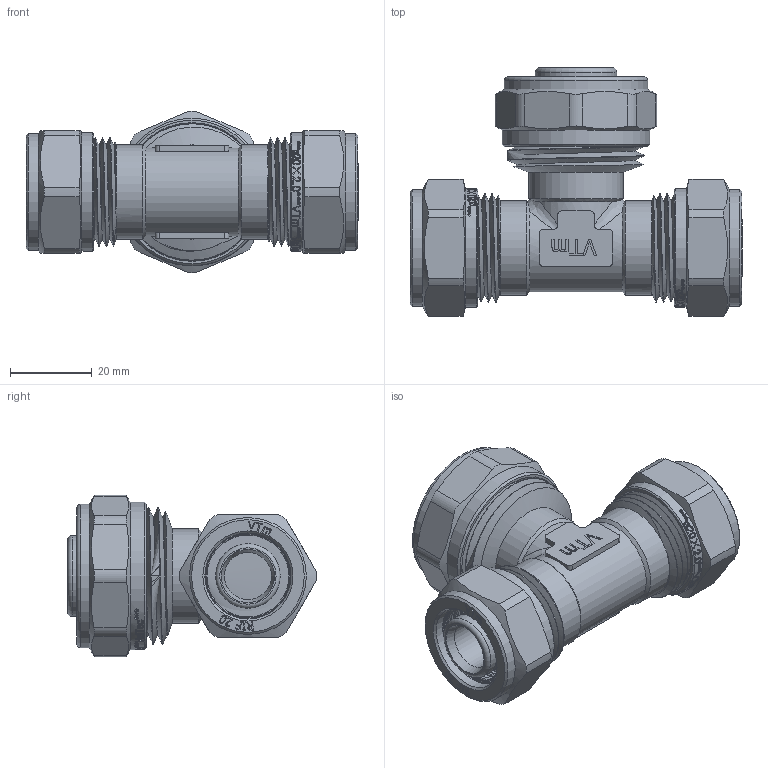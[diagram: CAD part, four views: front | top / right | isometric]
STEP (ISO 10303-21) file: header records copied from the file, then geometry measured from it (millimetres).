
FILE_DESCRIPTION(/* description */ (''),/* implementation_level */ '2;1');
FILE_NAME(/* name */ 'E:\Артём\00000\Работа удаленка\Обжимные фитинги\VTm.331.N.202620.stp',/* time_stamp */ '2020-06-30T13:01:27+03:00',/* author */ ('BeN_GaN'),/* organization */ (''),/* preprocessor_version */ 'ST-DEVELOPER v18',/* originating_system */ 'Autodesk Inventor 2020',/* authorisation */ '');
FILE_SCHEMA (('AUTOMOTIVE_DESIGN { 1 0 10303 214 3 1 1 }'));
Length unit declared in the file: millimetre
Products named in the file (1): VTm.331.N.202620
Bounding box: 81 x 60.72 x 39.39 mm (x, y, z)
Volume: 48908.1 mm3; surface area: 33536 mm2
Topology: 2 solids, 4 shells, 2006 faces, 5649 edges, 3809 vertices
Faces by surface type: bspline 1088, plane 554, cylinder 250, torus 68, cone 46
Full cylindrical faces by diameter (mm): 11.5 x1, 13.4 x4, 15 x1, 15.75 x8, 17.4 x2, 19.8 x5, 19.986 x8, 20.2 x2, 20.728 x10, 21 x2, 23 x15, 23.201 x2, 24.2 x3, 24.516 x4, 25.435 x5, 26.2 x1, 26.4 x4, 26.7 x1, 28.5 x3, 28.7 x4, 29 x2, 30.5 x2, 33.3 x2, 35 x1, 36 x1
Entity records: 87926 total; most frequent: CARTESIAN_POINT 42952, ORIENTED_EDGE 11304, DIRECTION 5989, EDGE_CURVE 5652, VERTEX_POINT 3812, LINE 2389, VECTOR 2389, B_SPLINE_CURVE_WITH_KNOTS 2342
